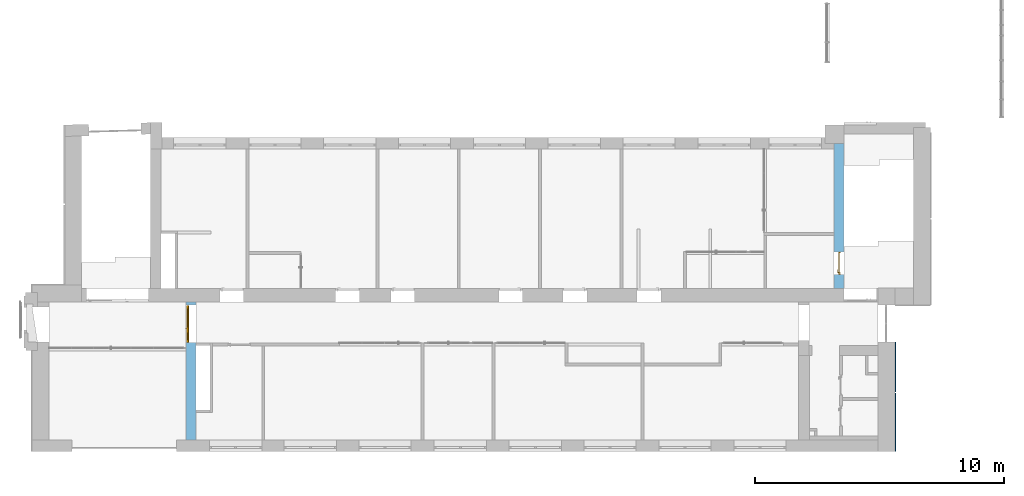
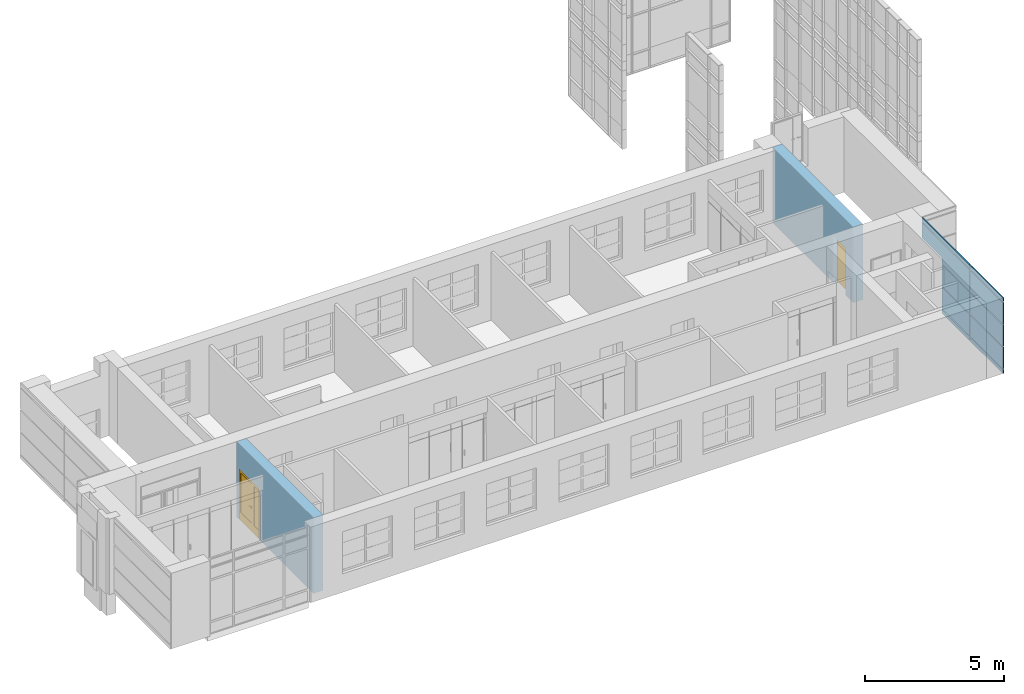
# One storey, part 71 of 73: 2 doors, 1 wall, 5 openings, plus 2 elements that do not belong to this part.
"""IFC2X3 building model written with IfcOpenShell, lengths in millimetres."""

from ifc_helpers import new_model, entity, si_unit, converted_unit, derived_unit, direction, frame, frame_2d, origin, origin_2d_with_axis, place, context, subcontext, project, spatial, rectangle, extrude, faceted_brep, source, transform, mapped, material, material_list, layer, layer_set, layer_usage, type_object, type_shapes, element, fill, save


model = new_model("IFC2X3")

# Units and contexts
model_context = context("Model", 3, precision=0.01, world=origin(), true_north=direction((6.12303176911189e-17, 1.0)))
body_context = subcontext(model_context, "Body", "Model", "MODEL_VIEW")
ifc_project = project(units=[si_unit("LENGTHUNIT", "METRE", prefix="MILLI"), si_unit("AREAUNIT", "SQUARE_METRE"), si_unit("VOLUMEUNIT", "CUBIC_METRE"), converted_unit("PLANEANGLEUNIT", "DEGREE", entity("IfcRatioMeasure", 0.0174532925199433), si_unit("PLANEANGLEUNIT", "RADIAN"), dimensions=[0, 0, 0, 0, 0, 0, 0]), si_unit("MASSUNIT", "GRAM", prefix="KILO"), derived_unit("MASSDENSITYUNIT", [(si_unit("MASSUNIT", "GRAM", prefix="KILO"), 1), (si_unit("LENGTHUNIT", "METRE"), -3)]), si_unit("TIMEUNIT", "SECOND"), si_unit("FREQUENCYUNIT", "HERTZ"), si_unit("THERMODYNAMICTEMPERATUREUNIT", "DEGREE_CELSIUS"), derived_unit("THERMALTRANSMITTANCEUNIT", [(si_unit("MASSUNIT", "GRAM", prefix="KILO"), 1), (si_unit("THERMODYNAMICTEMPERATUREUNIT", "KELVIN"), -1), (si_unit("TIMEUNIT", "SECOND"), -3)]), derived_unit("VOLUMETRICFLOWRATEUNIT", [(si_unit("LENGTHUNIT", "METRE"), 3), (si_unit("TIMEUNIT", "SECOND"), -1)]), si_unit("ELECTRICCURRENTUNIT", "AMPERE"), si_unit("ELECTRICVOLTAGEUNIT", "VOLT"), si_unit("POWERUNIT", "WATT"), si_unit("FORCEUNIT", "NEWTON", prefix="KILO"), si_unit("ILLUMINANCEUNIT", "LUX"), si_unit("LUMINOUSFLUXUNIT", "LUMEN"), si_unit("LUMINOUSINTENSITYUNIT", "CANDELA"), derived_unit("USERDEFINED", [(si_unit("MASSUNIT", "GRAM", prefix="KILO"), -1), (si_unit("LENGTHUNIT", "METRE"), -2), (si_unit("TIMEUNIT", "SECOND"), 3), (si_unit("LUMINOUSFLUXUNIT", "LUMEN"), 1)]), derived_unit("LINEARVELOCITYUNIT", [(si_unit("LENGTHUNIT", "METRE"), 1), (si_unit("TIMEUNIT", "SECOND"), -1)]), si_unit("PRESSUREUNIT", "PASCAL"), derived_unit("USERDEFINED", [(si_unit("LENGTHUNIT", "METRE"), -2), (si_unit("MASSUNIT", "GRAM", prefix="KILO"), 1), (si_unit("TIMEUNIT", "SECOND"), -2)])], contexts=[model_context])

# Site, building, storey
site_placement = place(None, frame((-151.875543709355, 2715.0, 0.0)))
site = spatial("IfcSite", under=ifc_project, at=site_placement, Name="Surface", CompositionType="ELEMENT")
building_placement = place(site_placement, origin())
building = spatial("IfcBuilding", under=site, at=building_placement, CompositionType="ELEMENT")
storey_placement = place(building_placement, frame((0.0, 0.0, 6730.43000000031)))
storey = spatial("IfcBuildingStorey", under=building, at=storey_placement, Name="3 korrus", CompositionType="ELEMENT", Elevation=6730.43000000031)

# Wall, openings, door
ifc_material_1 = material(Name="__Hall krohv")
ifc_layer_1 = layer(ifc_material_1, 10.0)
ifc_material_2 = material(Name="Tellis")
ifc_layer_2 = layer(ifc_material_2, 380.0)
ifc_layer_3 = layer(ifc_material_1, 10.0)
ifc_layer_set = layer_set([ifc_layer_1, ifc_layer_2, ifc_layer_3], Name="Basic Wall:SS-01_ol.olev tellissein400")
ifc_layer_usage_1 = layer_usage(ifc_layer_set, "AXIS2", "NEGATIVE", 200.0)
wall_type_1 = type_object("IfcWallType", Name="Basic Wall:SS-01_ol.olev tellissein400", PredefinedType="STANDARD", material=ifc_layer_set)
wall_1_placement = place(storey_placement, frame((32172.6162682, 6560.0, 0.00203353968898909), z_axis=(0.0, 0.0, 1.0), x_axis=(0.0, 1.0, 0.0)))
wall_1 = element("IfcWallStandardCase", 1, at=wall_1_placement, inside=storey, type_object=wall_type_1, material=ifc_layer_usage_1, Name="SEIN - 003", ObjectType="Basic Wall:SS-01_ol.olev tellissein400", context=body_context, shape_type="SweptSolid", body=[
    extrude(rectangle(XDim=5820.0, YDim=400.000000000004, at=frame_2d((2910.0, 0.0), x_axis=(-1.0, 0.0))), origin(), (0.0, 0.0, 1.0), 3329.56796646),
])
opening_1_placement = place(wall_1_placement, origin())
element("IfcOpeningElement", 2, at=opening_1_placement, cuts=wall_1, Name="SEIN - 003", ObjectType="Opening", context=body_context, shape_type="SweptSolid", body=[
    extrude(rectangle(XDim=2099.99999999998, YDim=880.0, at=frame_2d((1.02318153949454e-12, -5.40012479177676e-13), x_axis=(1.0, 0.0))), frame((1001.1202049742, -200.0, 1049.9979664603), z_axis=(0.0, 1.0, 0.0), x_axis=(0.0, 0.0, -1.0)), (0.0, 0.0, 1.0), 400.000000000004),
])
opening_2_placement = place(wall_1_placement, frame((550.150194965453, -200.0, -0.00203353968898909)))
opening_2 = element("IfcOpeningElement", 3, at=opening_2_placement, cuts=wall_1, Name="Ühepoolsed:SU-10:1", ObjectType="Opening", context=body_context, shape_type="SweptSolid", body=[
    extrude(rectangle(XDim=2099.99999999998, YDim=900.0, at=frame_2d((1049.99999999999, 450.0), x_axis=(1.0, 0.0))), frame((0.0, 0.0, 0.0), z_axis=(0.0, 1.0, 0.0), x_axis=(0.0, 0.0, 1.0)), (0.0, 0.0, 1.0), 400.0),
])
ifc_material_3 = material(Name="_Alumiiniumprofiil - must")
ifc_material_4 = material(Name="__Uks_hele tamm")
ifc_material_list_1 = material_list([ifc_material_3, ifc_material_4])
ifc_material_list_2 = material_list([ifc_material_3, ifc_material_4])
door_style_1 = type_object("IfcDoorStyle", Name="SU-10", ConstructionType="NOTDEFINED", OperationType="FOLDING_TO_LEFT", ParameterTakesPrecedence=False, Sizeable=False, material=ifc_material_list_2)
shared_shape_1 = source(origin(), body_context, "Body", "Brep", [
    faceted_brep([(100.0, 140.0, 1112.5), (100.0, 178.0, 1112.5), (75.0, 178.0, 1112.5), (75.0, 135.0, 1112.5), (195.0, 135.0, 1112.5), (195.0, 140.0, 1112.5), (100.0, 140.0, 1087.5), (195.0, 140.0, 1087.5), (195.0, 135.0, 1087.5), (75.0, 135.0, 1087.5), (75.0, 178.0, 1087.5), (100.0, 178.0, 1087.5)], [[[0, 1, 2, 3, 4, 5]], [[6, 7, 8, 9, 10, 11]], [[1, 0, 6, 11]], [[2, 1, 11, 10]], [[3, 2, 10, 9]], [[4, 3, 9, 8]], [[5, 4, 8, 7]], [[0, 5, 7, 6]]]),
    faceted_brep([(112.5, 178.0, 1137.5), (112.5, 180.0, 1137.5), (62.5, 180.0, 1137.5), (62.5, 178.0, 1137.5), (112.5, 178.0, 1017.5), (62.5, 178.0, 1017.5), (62.5, 180.0, 1017.5), (112.5, 180.0, 1017.5)], [[[0, 1, 2, 3]], [[4, 5, 6, 7]], [[1, 0, 4, 7]], [[2, 1, 7, 6]], [[3, 2, 6, 5]], [[0, 3, 5, 4]]]),
    faceted_brep([(100.0, 270.0, 1112.5), (195.0, 270.0, 1112.5), (195.0, 275.0, 1112.5), (75.0, 275.0, 1112.5), (75.0, 232.0, 1112.5), (100.0, 232.0, 1112.5), (100.0, 270.0, 1087.5), (100.0, 232.0, 1087.5), (75.0, 232.0, 1087.5), (75.0, 275.0, 1087.5), (195.0, 275.0, 1087.5), (195.0, 270.0, 1087.5)], [[[0, 1, 2, 3, 4, 5]], [[6, 7, 8, 9, 10, 11]], [[5, 7, 6, 0]], [[4, 8, 7, 5]], [[3, 9, 8, 4]], [[2, 10, 9, 3]], [[1, 11, 10, 2]], [[0, 6, 11, 1]]]),
    faceted_brep([(112.5, 232.0, 1137.5), (62.5, 232.0, 1137.5), (62.5, 230.0, 1137.5), (112.5, 230.0, 1137.5), (112.5, 232.0, 1017.5), (112.5, 230.0, 1017.5), (62.5, 230.0, 1017.5), (62.5, 232.0, 1017.5)], [[[0, 1, 2, 3]], [[4, 5, 6, 7]], [[3, 5, 4, 0]], [[2, 6, 5, 3]], [[1, 7, 6, 2]], [[0, 4, 7, 1]]]),
    faceted_brep([(900.0, 140.0, 0.0), (860.0, 140.0, 0.0), (860.0, 180.0, 0.0), (875.0, 180.0, 0.0), (875.0, 230.0, 0.0), (900.0, 230.0, 0.0), (900.0, 140.0, 2100.0), (0.0, 140.0, 2100.0), (0.0, 140.0, 0.0), (40.0, 140.0, 0.0), (40.0, 140.0, 2060.0), (860.0, 140.0, 2060.0), (860.0, 180.0, 2060.0), (40.0, 180.0, 2060.0), (40.0, 180.0, 0.0), (25.0, 180.0, 0.0), (25.0, 180.0, 2075.0), (875.0, 180.0, 2075.0), (875.0, 230.0, 2075.0), (25.0, 230.0, 2075.0), (25.0, 230.0, 0.0), (0.0, 230.0, 0.0), (0.0, 230.0, 2100.0), (900.0, 230.0, 2100.0)], [[[0, 1, 2, 3, 4, 5]], [[1, 0, 6, 7, 8, 9, 10, 11]], [[2, 1, 11, 12]], [[3, 2, 12, 13, 14, 15, 16, 17]], [[4, 3, 17, 18]], [[5, 4, 18, 19, 20, 21, 22, 23]], [[0, 5, 23, 6]], [[8, 7, 22, 21]], [[9, 8, 21, 20, 15, 14]], [[10, 9, 14, 13]], [[16, 15, 20, 19]], [[7, 6, 23, 22]], [[11, 10, 13, 12]], [[17, 16, 19, 18]]]),
    faceted_brep([(25.0, 180.0, 2075.0), (25.0, 180.0, 20.0), (875.0, 180.0, 20.0), (875.0, 180.0, 2075.0), (25.0, 230.0, 2075.0), (875.0, 230.0, 2075.0), (875.0, 230.0, 20.0), (25.0, 230.0, 20.0)], [[[0, 1, 2, 3]], [[4, 5, 6, 7]], [[1, 0, 4, 7]], [[2, 1, 7, 6]], [[3, 2, 6, 5]], [[0, 3, 5, 4]]]),
])
type_shapes(door_style_1, [shared_shape_1])
door_1_placement = place(opening_2_placement, origin())
door_1 = element("IfcDoor", 4, at=door_1_placement, inside=storey, type_object=door_style_1, material=ifc_material_list_1, Name="Ühepoolsed:SU-10", ObjectType="SU-10", OverallHeight=2099.99999999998, OverallWidth=900.0, context=body_context, shape_type="MappedRepresentation", body=[
    mapped(shared_shape_1, transform((0.0, 0.0, 0.0), scale=1.0)),
])
fill(opening_2, door_1)

ifc_layer_usage_2 = layer_usage(ifc_layer_set, "AXIS2", "NEGATIVE", 200.0)
wall_2_placement = place(storey_placement, frame((6162.49352943, 459.904632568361, 0.00203353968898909), z_axis=(0.0, 0.0, 1.0), x_axis=(0.0, 1.0, 0.0)))
wall_2 = element("IfcWallStandardCase", 5, at=wall_2_placement, inside=storey, type_object=wall_type_1, material=ifc_layer_usage_2, Name="SEIN - 001", ObjectType="Basic Wall:SS-01_ol.olev tellissein400", context=body_context, shape_type="SweptSolid", body=[
    extrude(rectangle(XDim=5550.09536743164, YDim=400.0, at=frame_2d((2775.04768371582, 0.0), x_axis=(-1.0, 0.0))), origin(), (0.0, 0.0, 1.0), 3329.56796646),
])
opening_3_placement = place(wall_2_placement, origin())
element("IfcOpeningElement", 6, at=opening_3_placement, cuts=wall_2, Name="SEIN - 001", ObjectType="Opening", context=body_context, shape_type="SweptSolid", body=[
    extrude(rectangle(XDim=2230.0, YDim=1510.16235352, at=origin_2d_with_axis()), frame((4671.45356888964, -200.0, 1115.0), z_axis=(0.0, 1.0, 0.0), x_axis=(0.0, 0.0, -1.0)), (0.0, 0.0, 1.0), 800.0),
])
opening_4_placement = place(wall_2_placement, origin())
element("IfcOpeningElement", 7, at=opening_4_placement, cuts=wall_2, Name="SEIN - 001", ObjectType="Opening", context=body_context, shape_type="SweptSolid", body=[
    extrude(rectangle(XDim=2419.99999999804, YDim=1500.0, at=frame_2d((-1.02318153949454e-12, 5.11590769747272e-13), x_axis=(1.0, 0.0))), frame((4666.37239212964, -1724.0, 4539.56593291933), z_axis=(0.0, 1.0, 0.0), x_axis=(0.0, 0.0, 1.0)), (0.0, 0.0, 1.0), 3048.0),
])
opening_5_placement = place(wall_2_placement, frame((3916.37239212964, -200.0, -0.00203353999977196)))
opening_5 = element("IfcOpeningElement", 8, at=opening_5_placement, cuts=wall_2, Name="Kahepoolsed:SU-14:1", ObjectType="Opening", context=body_context, shape_type="SweptSolid", body=[
    extrude(rectangle(XDim=2199.99999999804, YDim=1500.0, at=frame_2d((1099.99999999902, 750.0), x_axis=(1.0, 0.0))), frame((0.0, 0.0, 0.0), z_axis=(0.0, 1.0, 0.0), x_axis=(0.0, 0.0, 1.0)), (0.0, 0.0, 1.0), 400.0),
])
ifc_material_5 = material(Name="EP Tavallinen lasi")
ifc_material_list_3 = material_list([ifc_material_3, ifc_material_4, ifc_material_5])
ifc_material_list_4 = material_list([ifc_material_3, ifc_material_4, ifc_material_5])
door_style_2 = type_object("IfcDoorStyle", Name="SU-14", ConstructionType="NOTDEFINED", OperationType="FOLDING_TO_RIGHT", ParameterTakesPrecedence=False, Sizeable=False, material=ifc_material_list_4)
shared_shape_2 = source(origin(), body_context, "Body", "Brep", [
    faceted_brep([(520.260051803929, 290.0, 1100.0), (520.260051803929, 328.0, 1100.0), (495.260051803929, 328.0, 1100.0), (495.260051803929, 285.0, 1100.0), (615.260051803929, 285.0, 1100.0), (615.260051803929, 290.0, 1100.0), (520.260051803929, 290.0, 1075.0), (615.260051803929, 290.0, 1075.0), (615.260051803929, 285.0, 1075.0), (495.260051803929, 285.0, 1075.0), (495.260051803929, 328.0, 1075.0), (520.260051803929, 328.0, 1075.0)], [[[0, 1, 2, 3, 4, 5]], [[6, 7, 8, 9, 10, 11]], [[1, 0, 6, 11]], [[2, 1, 11, 10]], [[3, 2, 10, 9]], [[4, 3, 9, 8]], [[5, 4, 8, 7]], [[0, 5, 7, 6]]]),
    faceted_brep([(532.760051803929, 328.0, 1125.0), (532.760051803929, 330.0, 1125.0), (482.760051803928, 330.0, 1125.0), (482.760051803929, 328.0, 1125.0), (532.760051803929, 328.0, 1005.0), (482.760051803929, 328.0, 1005.0), (482.760051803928, 330.0, 1005.0), (532.760051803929, 330.0, 1005.0)], [[[0, 1, 2, 3]], [[4, 5, 6, 7]], [[1, 0, 4, 7]], [[2, 1, 7, 6]], [[3, 2, 6, 5]], [[0, 3, 5, 4]]]),
    faceted_brep([(520.26005180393, 420.0, 1100.0), (615.26005180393, 420.0, 1100.0), (615.26005180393, 425.0, 1100.0), (495.26005180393, 425.0, 1100.0), (495.26005180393, 382.0, 1100.0), (520.26005180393, 382.0, 1100.0), (520.26005180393, 420.0, 1075.0), (520.26005180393, 382.0, 1075.0), (495.26005180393, 382.0, 1075.0), (495.26005180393, 425.0, 1075.0), (615.26005180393, 425.0, 1075.0), (615.26005180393, 420.0, 1075.0)], [[[0, 1, 2, 3, 4, 5]], [[6, 7, 8, 9, 10, 11]], [[5, 7, 6, 0]], [[4, 8, 7, 5]], [[3, 9, 8, 4]], [[2, 10, 9, 3]], [[1, 11, 10, 2]], [[0, 6, 11, 1]]]),
    faceted_brep([(532.76005180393, 382.0, 1125.0), (482.76005180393, 382.0, 1125.0), (482.76005180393, 380.0, 1125.0), (532.76005180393, 380.0, 1125.0), (532.76005180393, 382.0, 1005.0), (532.76005180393, 380.0, 1005.0), (482.76005180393, 380.0, 1005.0), (482.76005180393, 382.0, 1005.0)], [[[0, 1, 2, 3]], [[4, 5, 6, 7]], [[3, 5, 4, 0]], [[2, 6, 5, 3]], [[1, 7, 6, 2]], [[0, 4, 7, 1]]]),
    faceted_brep([(-27.2399481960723, 290.0, 30.0), (-27.2399481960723, 330.0, 30.0), (-27.2399481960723, 330.0, 20.0), (-27.2399481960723, 330.0, 0.0), (-27.2399481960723, 290.0, 0.0), (1392.76005180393, 290.0, 30.0), (1392.76005180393, 290.0, 0.0), (1392.76005180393, 330.0, 0.0), (1392.76005180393, 330.0, 20.0), (1392.76005180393, 330.0, 30.0), (-42.2399481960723, 330.0, 0.0), (-42.2399481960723, 380.0, 0.0), (1407.76005180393, 380.0, 0.0), (1407.76005180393, 330.0, 0.0), (-42.2399481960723, 380.0, 20.0), (-42.2399481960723, 330.0, 20.0), (1407.76005180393, 380.0, 20.0), (1407.76005180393, 330.0, 20.0)], [[[0, 1, 2, 3, 4]], [[5, 6, 7, 8, 9]], [[4, 6, 5, 0]], [[3, 10, 11, 12, 13, 7, 6, 4]], [[9, 8, 2, 1]], [[0, 5, 9, 1]], [[14, 11, 10, 15]], [[16, 17, 13, 12]], [[15, 2, 8, 17, 16, 14]], [[10, 3, 2, 15]], [[14, 16, 12, 11]], [[17, 8, 7, 13]]]),
    faceted_brep([(-67.2399481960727, 290.0, 0.0), (-67.239948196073, 380.0, 0.0), (-42.239948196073, 380.0, 0.0), (-42.2399481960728, 330.0, 0.0), (-27.2399481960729, 330.0, 0.0), (-27.2399481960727, 290.0, 0.0), (-27.2399481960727, 290.0, 2160.0), (1392.76005180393, 290.0, 2160.0), (1392.76005180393, 290.0, 0.0), (1432.76005180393, 290.0, 0.0), (1432.76005180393, 290.0, 2200.0), (-67.2399481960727, 290.0, 2200.0), (-27.2399481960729, 330.0, 2160.0), (-42.239948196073, 330.0, 2175.0), (1407.76005180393, 330.0, 2175.0), (1407.76005180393, 330.0, 0.0), (1392.76005180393, 330.0, 0.0), (1392.76005180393, 330.0, 2160.0), (-42.2399481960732, 380.0, 2175.0), (-67.2399481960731, 380.0, 2200.0), (1432.76005180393, 380.0, 2200.0), (1432.76005180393, 380.0, 0.0), (1407.76005180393, 380.0, 0.0), (1407.76005180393, 380.0, 2175.0)], [[[0, 1, 2, 3, 4, 5]], [[5, 6, 7, 8, 9, 10, 11, 0]], [[4, 12, 6, 5]], [[3, 13, 14, 15, 16, 17, 12, 4]], [[2, 18, 13, 3]], [[1, 19, 20, 21, 22, 23, 18, 2]], [[0, 11, 19, 1]], [[9, 21, 20, 10]], [[8, 16, 15, 22, 21, 9]], [[7, 17, 16, 8]], [[14, 23, 22, 15]], [[6, 12, 17, 7]], [[13, 18, 23, 14]], [[10, 20, 19, 11]]]),
    faceted_brep([(1307.76005180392, 345.0, 350.0), (1307.76005180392, 345.0, 2100.0), (532.760051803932, 345.0, 2100.0), (532.760051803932, 345.0, 350.0), (1307.76005180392, 365.0, 350.0), (532.760051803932, 365.0, 350.0), (532.760051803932, 365.0, 2100.0), (1307.76005180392, 365.0, 2100.0)], [[[0, 1, 2, 3]], [[4, 5, 6, 7]], [[3, 5, 4, 0]], [[2, 6, 5, 3]], [[1, 7, 6, 2]], [[0, 4, 7, 1]]]),
    faceted_brep([(332.760051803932, 345.0, 350.0), (332.760051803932, 345.0, 2100.0), (32.7600518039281, 345.0, 2100.0), (32.7600518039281, 345.0, 350.0), (332.760051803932, 365.0, 350.0), (32.7600518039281, 365.0, 350.0), (32.7600518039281, 365.0, 2100.0), (332.760051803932, 365.0, 2100.0)], [[[0, 1, 2, 3]], [[4, 5, 6, 7]], [[3, 5, 4, 0]], [[2, 6, 5, 3]], [[1, 7, 6, 2]], [[0, 4, 7, 1]]]),
    faceted_brep([(432.760051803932, 330.0, 2175.0), (432.760051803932, 330.0, 20.0), (1407.76005180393, 330.0, 20.0), (1407.76005180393, 330.0, 2175.0), (1307.76005180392, 330.0, 350.0), (532.760051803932, 330.0, 350.0), (532.760051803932, 330.0, 2100.0), (1307.76005180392, 330.0, 2100.0), (432.760051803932, 380.0, 2175.0), (1407.76005180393, 380.0, 2175.0), (1407.76005180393, 380.0, 20.0), (432.760051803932, 380.0, 20.0), (1307.76005180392, 380.0, 2100.0), (532.760051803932, 380.0, 2100.0), (532.760051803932, 380.0, 350.0), (1307.76005180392, 380.0, 350.0)], [[[0, 1, 2, 3], [4, 5, 6, 7]], [[8, 9, 10, 11], [12, 13, 14, 15]], [[3, 9, 8, 0]], [[2, 10, 9, 3]], [[1, 11, 10, 2]], [[0, 8, 11, 1]], [[12, 15, 4, 7]], [[15, 14, 5, 4]], [[14, 13, 6, 5]], [[7, 6, 13, 12]]]),
    faceted_brep([(432.760051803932, 330.0, 2175.0), (-42.2399481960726, 330.0, 2175.0), (-42.2399481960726, 330.0, 20.0), (432.760051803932, 330.0, 20.0), (332.760051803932, 330.0, 350.0), (32.7600518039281, 330.0, 350.0), (32.7600518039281, 330.0, 2100.0), (332.760051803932, 330.0, 2100.0), (432.760051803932, 380.0, 2175.0), (432.760051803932, 380.0, 20.0), (-42.2399481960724, 380.0, 20.0), (-42.2399481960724, 380.0, 2175.0), (332.760051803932, 380.0, 2100.0), (32.7600518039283, 380.0, 2100.0), (32.7600518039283, 380.0, 350.0), (332.760051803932, 380.0, 350.0)], [[[0, 1, 2, 3], [4, 5, 6, 7]], [[8, 9, 10, 11], [12, 13, 14, 15]], [[3, 9, 8, 0]], [[2, 10, 9, 3]], [[1, 11, 10, 2]], [[0, 8, 11, 1]], [[12, 15, 4, 7]], [[15, 14, 5, 4]], [[14, 13, 6, 5]], [[7, 6, 13, 12]]]),
])
type_shapes(door_style_2, [shared_shape_2])
door_2_placement = place(opening_5_placement, frame((67.2399481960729, 0.0, 0.0)))
door_2 = element("IfcDoor", 9, at=door_2_placement, inside=storey, type_object=door_style_2, material=ifc_material_list_3, Name="Kahepoolsed:SU-14", ObjectType="SU-14", OverallHeight=2199.99999999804, OverallWidth=1500.0, context=body_context, shape_type="MappedRepresentation", body=[
    mapped(shared_shape_2, transform((0.0, 0.0, 0.0), scale=1.0)),
])
fill(opening_5, door_2)

# Wall
ifc_material_6 = material(Name="Steel/Aluminium")
wall_type_2 = type_object("IfcWallType", Name="fassaad7.1:fassaad7.1", PredefinedType="NOTDEFINED", material=ifc_material_6)
wall_3_placement = place(storey_placement, frame((34420.6162682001, 1.0, 0.00203353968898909), z_axis=(0.0, 0.0, 1.0), x_axis=(0.0, 1.0, 0.0)))
element("IfcWall", 10, at=wall_3_placement, inside=storey, type_object=wall_type_2, material=ifc_material_6, Name="fassaad7.1:fassaad7.1", ObjectType="fassaad7.1:fassaad7.1", context=body_context, shape_type="Brep", body=[
    faceted_brep([(2405.0, -50.0, 159.0), (2405.0, -50.0, 0.0), (4401.0, -50.0, 0.0), (4401.0, -50.0, 159.0), (2405.0, 0.0, 0.0), (4401.0, 0.0, 0.0), (2405.0, 0.0, 159.0), (4401.0, 0.0, 159.0)], [[[0, 1, 2, 3]], [[1, 4, 5, 2]], [[0, 6, 4, 1]], [[3, 7, 6, 0]], [[2, 5, 7, 3]], [[6, 7, 5, 4]]]),
    faceted_brep([(0.0, -50.0, 0.0), (0.0, 0.0, 0.0), (2355.0, 0.0, 0.0), (2355.0, -50.0, 0.0), (0.0, -50.0, 159.0), (0.0, 0.0, 159.0), (2355.0, -50.0, 159.0), (2355.0, 0.0, 159.0)], [[[0, 1, 2, 3]], [[4, 5, 1, 0]], [[6, 7, 5, 4]], [[3, 2, 7, 6]], [[2, 1, 5, 7]], [[3, 6, 4, 0]]]),
    faceted_brep([(2355.0, -50.0, 1194.0), (2355.0, 0.0, 1194.0), (2355.0, 0.0, 2129.0), (2355.0, -50.0, 2129.0), (0.0, -50.0, 1194.0), (0.0, 0.0, 1194.0), (0.0, -50.0, 2129.0), (0.0, 0.0, 2129.0)], [[[0, 1, 2, 3]], [[4, 5, 1, 0]], [[6, 7, 5, 4]], [[3, 2, 7, 6]], [[7, 2, 1, 5]], [[6, 4, 0, 3]]]),
    faceted_brep([(2405.0, -50.0, 2129.0), (2405.0, 0.0, 2129.0), (2405.0, 0.0, 1194.0), (2405.0, -50.0, 1194.0), (4401.0, 0.0, 1194.0), (4401.0, -50.0, 1194.0), (4401.0, -50.0, 2129.0), (4401.0, 0.0, 2129.0)], [[[0, 1, 2, 3]], [[3, 2, 4, 5]], [[6, 7, 1, 0]], [[5, 4, 7, 6]], [[2, 1, 7, 4]], [[3, 5, 6, 0]]]),
    faceted_brep([(2355.0, -50.0, 1144.0), (2355.0, 0.0, 1144.0), (0.0, 0.0, 1144.0), (0.0, -50.0, 1144.0), (2355.0, -50.0, 209.0), (2355.0, 0.0, 209.0), (0.0, -50.0, 209.0), (0.0, 0.0, 209.0)], [[[0, 1, 2, 3]], [[4, 5, 1, 0]], [[6, 7, 5, 4]], [[3, 2, 7, 6]], [[2, 1, 5, 7]], [[3, 6, 4, 0]]]),
    faceted_brep([(2405.0, -50.0, 1144.0), (2405.0, 0.0, 1144.0), (2405.0, 0.0, 209.0), (2405.0, -50.0, 209.0), (4401.0, -50.0, 1144.0), (4401.0, 0.0, 1144.0), (4401.0, 0.0, 209.0), (4401.0, -50.0, 209.0)], [[[0, 1, 2, 3]], [[4, 5, 1, 0]], [[3, 2, 6, 7]], [[7, 6, 5, 4]], [[2, 1, 5, 6]], [[3, 7, 4, 0]]]),
    faceted_brep([(5840.0, -50.0, 3330.0), (5840.0, 0.0, 3330.0), (2405.0, 0.0, 3330.0), (2405.0, -50.0, 3330.0), (5840.0, -50.0, 3164.0), (5840.0, 0.0, 3164.0), (2405.0, -50.0, 3164.0), (2405.0, 0.0, 3164.0)], [[[0, 1, 2, 3]], [[4, 5, 1, 0]], [[6, 7, 5, 4]], [[3, 2, 7, 6]], [[2, 1, 5, 7]], [[3, 6, 4, 0]]]),
    faceted_brep([(2355.0, -50.0, 3114.0), (2355.0, 0.0, 3114.0), (0.0, 0.0, 3114.0), (0.0, -50.0, 3114.0), (2355.0, -50.0, 2179.0), (2355.0, 0.0, 2179.0), (0.0, 0.0, 2179.0), (0.0, -50.0, 2179.0)], [[[0, 1, 2, 3]], [[4, 5, 1, 0]], [[3, 2, 6, 7]], [[7, 6, 5, 4]], [[2, 1, 5, 6]], [[3, 7, 4, 0]]]),
    faceted_brep([(2405.0, -50.0, 3114.0), (2405.0, 0.0, 3114.0), (2405.0, 0.0, 2179.0), (2405.0, -50.0, 2179.0), (5840.0, -50.0, 3114.0), (5840.0, 0.0, 3114.0), (5840.0, -50.0, 2450.0), (5840.0, 0.0, 2450.0), (4401.0, 0.0, 2179.0), (4401.0, -50.0, 2179.0), (4401.0, -50.0, 2450.0), (4401.0, 0.0, 2450.0)], [[[0, 1, 2, 3]], [[4, 5, 1, 0]], [[6, 7, 5, 4]], [[3, 2, 8, 9]], [[10, 11, 7, 6]], [[9, 8, 11, 10]], [[2, 1, 5, 7, 11, 8]], [[3, 9, 10, 6, 4, 0]]]),
    faceted_brep([(0.0, -50.0, 3164.0), (0.0, 0.0, 3164.0), (2355.0, 0.0, 3164.0), (2355.0, -50.0, 3164.0), (0.0, -50.0, 3330.0), (0.0, 0.0, 3330.0), (2355.0, -50.0, 3330.0), (2355.0, 0.0, 3330.0)], [[[0, 1, 2, 3]], [[4, 5, 1, 0]], [[6, 7, 5, 4]], [[3, 2, 7, 6]], [[2, 1, 5, 7]], [[3, 6, 4, 0]]]),
])

save(model, "model.ifc")
